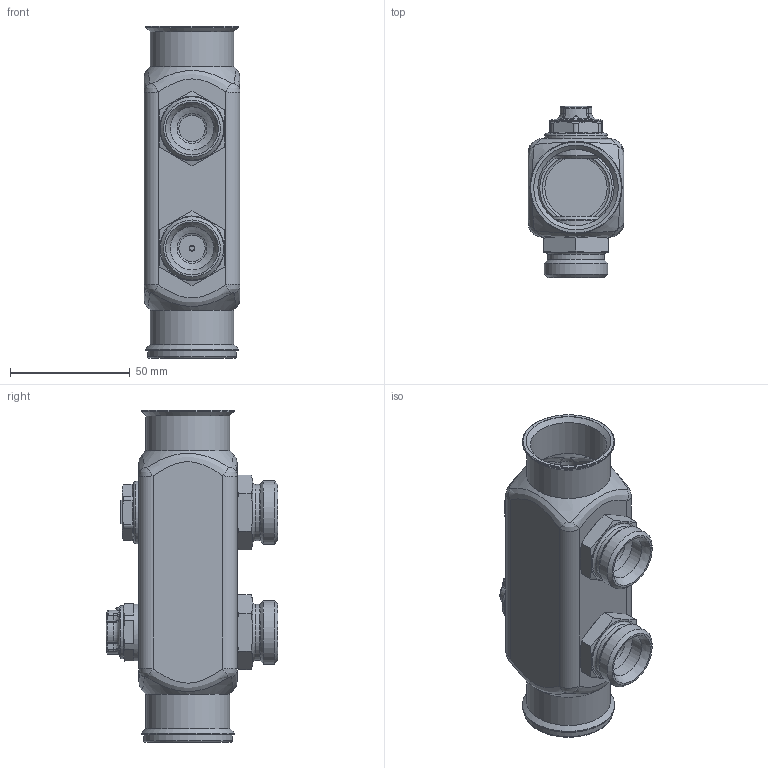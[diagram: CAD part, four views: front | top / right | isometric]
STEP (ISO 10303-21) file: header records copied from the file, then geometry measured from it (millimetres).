
FILE_DESCRIPTION(('STEP AP203'), '1');
FILE_NAME('VTc.505.SQ.060502', '2026-02-20T10:42:21', ('verevichevva'), ('Vesta'), 'C3D Converter', 'C3D Toolkit', '');
FILE_SCHEMA(('CONFIG_CONTROL_DESIGN'));
Length unit declared in the file: millimetre
Products named in the file (1): ВР.622621.183.000 СБ
Bounding box: 40 x 71.6 x 138.5 mm (x, y, z)
Volume: 60757 mm3; surface area: 62247.5 mm2
Topology: 13 solids, 13 shells, 718 faces, 1779 edges, 1116 vertices
Faces by surface type: plane 291, extrusion 118, cylinder 102, cone 94, bspline 72, torus 41
Full cylindrical faces by diameter (mm): 1.6 x1, 2.3 x1, 3.4 x1, 4.134 x1, 5 x1, 5.3 x1, 6.3 x2, 9.6 x1, 10.2 x1, 11 x2, 12.5 x2, 13 x1, 14 x1, 15.7 x1, 18 x3, 18.1 x2, 18.5 x1, 19 x4, 19.5 x2, 20 x1, 20.955 x4, 22 x1, 22.2 x4, 23 x1, 23.5 x2, 24 x1, 25.5 x1, 26 x1, 26.441 x2, 28 x1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
Entity records: 30209 total; most frequent: CARTESIAN_POINT 15001, ORIENTED_EDGE 3258, DIRECTION 2571, EDGE_CURVE 1629, VERTEX_POINT 1103, EDGE_LOOP 894, AXIS2_PLACEMENT_3D 868, VECTOR 835
